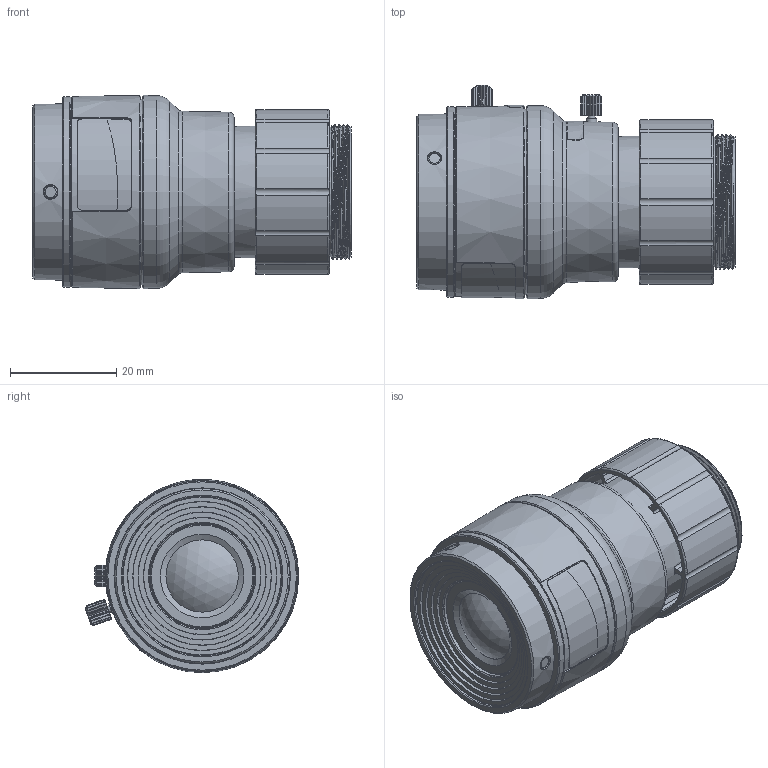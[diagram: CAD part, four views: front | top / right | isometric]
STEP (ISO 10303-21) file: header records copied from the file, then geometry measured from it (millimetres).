
FILE_DESCRIPTION(/* description */ ('STEP AP203'),/* implementation_level */ '2;1');
FILE_NAME(/* name */ 'SY110M',/* time_stamp */ '2024-10-02T06:59:30+02:00',/* author */ ('License CC BY-ND 4.0'),/* organization */ ('CADENAS'),/* preprocessor_version */ 'ST-DEVELOPER v19.3',/* originating_system */ 'PARTsolutions',/* authorisation */ ' ');
FILE_SCHEMA (('CONFIG_CONTROL_DESIGN'));
Length unit declared in the file: millimetre
Products named in the file (2): SY110M; SY110M_PART1
Assembly tree (1 placements, depth 2):
  SY110M
    SY110M_PART1
Bounding box: 59.8 x 40.15 x 36.35 mm (x, y, z)
Volume: 44714.2 mm3; surface area: 12007.9 mm2
Topology: 1 solids, 7 shells, 402 faces, 1042 edges, 684 vertices
Faces by surface type: plane 149, cylinder 104, cone 83, bspline 34, torus 31, sphere 1
Full cylindrical faces by diameter (mm): 1.4 x2, 2 x2, 2.5 x3, 2.8 x3, 5.8 x1, 11.5 x1, 13.6 x1, 19.5 x1, 24.541 x5, 30 x1, 35.024 x2
Entity records: 13484 total; most frequent: CARTESIAN_POINT 4877, ORIENTED_EDGE 1888, DIRECTION 1493, EDGE_CURVE 944, VERTEX_POINT 648, AXIS2_PLACEMENT_3D 620, EDGE_LOOP 484, FACE_BOUND 484
